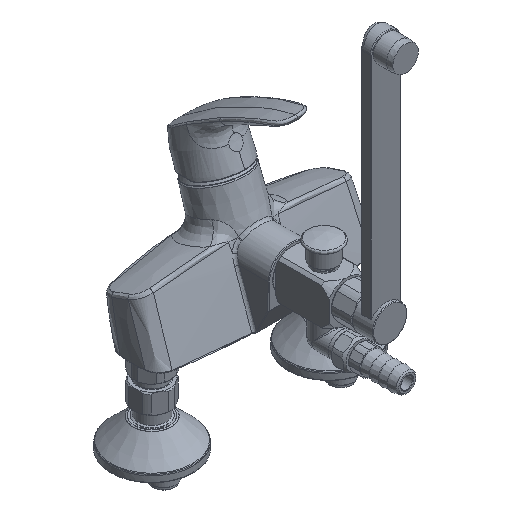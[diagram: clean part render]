
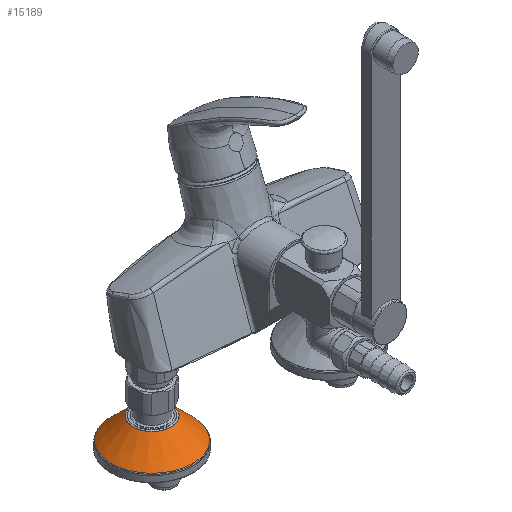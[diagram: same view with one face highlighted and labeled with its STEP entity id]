
A CAD part, isometric view. The second image highlights one B-rep face of the part: STEP entity #15189.
In plain terms, the highlighted conical face has half-angle 45.496 degrees and reference radius 35 mm.
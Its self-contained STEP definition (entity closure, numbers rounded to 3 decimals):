
#1088 = VERTEX_POINT ( 'NONE', #33629 ) ;
#1168 = CARTESIAN_POINT ( 'NONE',  ( -109.323, -4.771, 6.588 ) ) ;
#1277 = CARTESIAN_POINT ( 'NONE',  ( -79.646, -34.448, 6.588 ) ) ;
#1407 = CARTESIAN_POINT ( 'NONE',  ( -44.221, -15.513, 6.588 ) ) ;
#1502 = VERTEX_POINT ( 'NONE', #33983 ) ;
#1530 = CARTESIAN_POINT ( 'NONE',  ( -52.409, 25.65, 6.588 ) ) ;
#1649 = CARTESIAN_POINT ( 'NONE',  ( -92.384, 29.587, 6.588 ) ) ;
#2494 = EDGE_CURVE ( 'NONE', #1088, #1088, #25888, .T. ) ;
#3951 = CARTESIAN_POINT ( 'NONE',  ( -107.788, -11.353, 6.588 ) ) ;
#4085 = CARTESIAN_POINT ( 'NONE',  ( -72.891, -34.67, 6.588 ) ) ;
#4204 = CARTESIAN_POINT ( 'NONE',  ( -41.841, -9.188, 6.588 ) ) ;
#4317 = CARTESIAN_POINT ( 'NONE',  ( -57.902, 29.587, 6.588 ) ) ;
#4442 = CARTESIAN_POINT ( 'NONE',  ( -97.877, 25.65, 6.588 ) ) ;
#5370 = DIRECTION ( 'NONE',  ( 0., 0., -1. ) ) ;
#6385 = CARTESIAN_POINT ( 'NONE',  ( -109.545, -0.268, 6.588 ) ) ;
#6746 = CARTESIAN_POINT ( 'NONE',  ( -104.998, -17.509, 6.588 ) ) ;
#6861 = CARTESIAN_POINT ( 'NONE',  ( -66.223, -33.57, 6.588 ) ) ;
#6972 = CARTESIAN_POINT ( 'NONE',  ( -40.741, -2.52, 6.588 ) ) ;
#7100 = CARTESIAN_POINT ( 'NONE',  ( -64.058, 32.377, 6.588 ) ) ;
#7222 = CARTESIAN_POINT ( 'NONE',  ( -102.496, 20.717, 6.588 ) ) ;
#9542 = CARTESIAN_POINT ( 'NONE',  ( -101.061, -23.002, 6.588 ) ) ;
#9664 = CARTESIAN_POINT ( 'NONE',  ( -59.898, -31.19, 6.588 ) ) ;
#9789 = CARTESIAN_POINT ( 'NONE',  ( -40.963, 4.235, 6.588 ) ) ;
#9907 = CARTESIAN_POINT ( 'NONE',  ( -70.64, 33.912, 6.588 ) ) ;
#10026 = CARTESIAN_POINT ( 'NONE',  ( -106.065, 14.977, 6.588 ) ) ;
#10036 = DIRECTION ( 'NONE',  ( 0., 0., -1. ) ) ;
#12336 = CARTESIAN_POINT ( 'NONE',  ( -96.128, -27.621, 6.588 ) ) ;
#12456 = CARTESIAN_POINT ( 'NONE',  ( -54.158, -27.621, 6.588 ) ) ;
#12556 = CARTESIAN_POINT ( 'NONE',  ( -42.498, 10.817, 6.588 ) ) ;
#12693 = CARTESIAN_POINT ( 'NONE',  ( -77.395, 34.134, 6.588 ) ) ;
#12817 = CARTESIAN_POINT ( 'NONE',  ( -108.445, 8.652, 6.588 ) ) ;
#13056 = EDGE_CURVE ( 'NONE', #1502, #1502, #22123, .T. ) ;
#15103 = CARTESIAN_POINT ( 'NONE',  ( -90.388, -31.19, 6.588 ) ) ;
#15189 = ADVANCED_FACE ( 'NONE', ( #23794, #18173 ), #15564, .T. ) ;
#15225 = CARTESIAN_POINT ( 'NONE',  ( -49.225, -23.002, 6.588 ) ) ;
#15346 = CARTESIAN_POINT ( 'NONE',  ( -45.288, 16.973, 6.588 ) ) ;
#15462 = CARTESIAN_POINT ( 'NONE',  ( -84.063, 33.034, 6.588 ) ) ;
#15564 = CONICAL_SURFACE ( 'NONE', #25958, 35., 0.794 ) ;
#15580 = CARTESIAN_POINT ( 'NONE',  ( -109.545, 1.984, 6.588 ) ) ;
#17779 = CARTESIAN_POINT ( 'NONE',  ( -109.545, -2.52, 6.588 ) ) ;
#17902 = CARTESIAN_POINT ( 'NONE',  ( -84.063, -33.57, 6.588 ) ) ;
#18026 = CARTESIAN_POINT ( 'NONE',  ( -45.288, -17.509, 6.588 ) ) ;
#18133 = CARTESIAN_POINT ( 'NONE',  ( -49.225, 22.466, 6.588 ) ) ;
#18173 = FACE_BOUND ( 'NONE', #31010, .T. ) ;
#18254 = CARTESIAN_POINT ( 'NONE',  ( -90.388, 30.654, 6.588 ) ) ;
#19178 = DIRECTION ( 'NONE',  ( -1., 0., 0. ) ) ;
#19636 = ORIENTED_EDGE ( 'NONE', *, *, #2494, .T. ) ;
#20552 = CARTESIAN_POINT ( 'NONE',  ( -108.445, -9.188, 6.588 ) ) ;
#20672 = CARTESIAN_POINT ( 'NONE',  ( -77.395, -34.67, 6.588 ) ) ;
#20773 = CARTESIAN_POINT ( 'NONE',  ( -42.498, -11.353, 6.588 ) ) ;
#20904 = CARTESIAN_POINT ( 'NONE',  ( -54.158, 27.085, 6.588 ) ) ;
#21040 = CARTESIAN_POINT ( 'NONE',  ( -96.128, 27.085, 6.588 ) ) ;
#22123 = CIRCLE ( 'NONE', #26323, 16.252 ) ;
#23329 = CARTESIAN_POINT ( 'NONE',  ( -106.065, -15.513, 6.588 ) ) ;
#23436 = CARTESIAN_POINT ( 'NONE',  ( -70.64, -34.448, 6.588 ) ) ;
#23572 = CARTESIAN_POINT ( 'NONE',  ( -40.963, -4.771, 6.588 ) ) ;
#23692 = CARTESIAN_POINT ( 'NONE',  ( -59.898, 30.654, 6.588 ) ) ;
#23794 = FACE_OUTER_BOUND ( 'NONE', #31039, .T. ) ;
#23811 = CARTESIAN_POINT ( 'NONE',  ( -101.061, 22.466, 6.588 ) ) ;
#24615 = CARTESIAN_POINT ( 'NONE',  ( -75.143, -0.268, 6. ) ) ;
#25888 = B_SPLINE_CURVE_WITH_KNOTS ( 'NONE', 3,
 ( #6385, #17779, #1168, #20552, #3951, #23329, #6746, #26087, #9542, #28890, #12336, #31656, #15103, #34432, #17902, #1277, #20672, #4085, #23436, #6861, #26209, #9664, #28994, #12456, #31786, #15225, #34539, #18026, #1407, #20773, #4204, #23572, #6972, #26327, #9789, #29121, #12556, #31907, #15346, #34658, #18133, #1530, #20904, #4317, #23692, #7100, #26444, #9907, #29250, #12693, #32018, #15462, #34782, #18254, #1649, #21040, #4442, #23811, #7222, #26578, #10026, #29376, #12817, #32146, #15580, #34912 ),
 .UNSPECIFIED., .T., .F.,
 ( 4, 2, 2, 2, 2, 2, 2, 2, 2, 2, 2, 2, 2, 2, 2, 2, 2, 2, 2, 2, 2, 2, 2, 2, 2, 2, 2, 2, 2, 2, 2, 2, 4 ),
 ( 0., 0.031, 0.063, 0.094, 0.125, 0.156, 0.188, 0.219, 0.25, 0.281, 0.313, 0.344, 0.375, 0.406, 0.437, 0.469, 0.5, 0.531, 0.563, 0.594, 0.625, 0.656, 0.688, 0.719, 0.75, 0.781, 0.812, 0.844, 0.875, 0.906, 0.937, 0.969, 1. ),
 .UNSPECIFIED. ) ;
#25958 = AXIS2_PLACEMENT_3D ( 'NONE', #24615, #5370, #19178 ) ;
#26087 = CARTESIAN_POINT ( 'NONE',  ( -102.496, -21.253, 6.588 ) ) ;
#26209 = CARTESIAN_POINT ( 'NONE',  ( -64.058, -32.913, 6.588 ) ) ;
#26323 = AXIS2_PLACEMENT_3D ( 'NONE', #26589, #10036, #29386 ) ;
#26327 = CARTESIAN_POINT ( 'NONE',  ( -40.741, 1.984, 6.588 ) ) ;
#26444 = CARTESIAN_POINT ( 'NONE',  ( -66.223, 33.034, 6.588 ) ) ;
#26578 = CARTESIAN_POINT ( 'NONE',  ( -104.998, 16.973, 6.588 ) ) ;
#26589 = CARTESIAN_POINT ( 'NONE',  ( -75.143, -0.268, 24.426 ) ) ;
#28890 = CARTESIAN_POINT ( 'NONE',  ( -97.877, -26.186, 6.588 ) ) ;
#28994 = CARTESIAN_POINT ( 'NONE',  ( -57.902, -30.123, 6.588 ) ) ;
#29121 = CARTESIAN_POINT ( 'NONE',  ( -41.841, 8.652, 6.588 ) ) ;
#29250 = CARTESIAN_POINT ( 'NONE',  ( -72.891, 34.134, 6.588 ) ) ;
#29376 = CARTESIAN_POINT ( 'NONE',  ( -107.788, 10.817, 6.588 ) ) ;
#29386 = DIRECTION ( 'NONE',  ( -1., 0., 0. ) ) ;
#30374 = ORIENTED_EDGE ( 'NONE', *, *, #13056, .T. ) ;
#31010 = EDGE_LOOP ( 'NONE', ( #30374 ) ) ;
#31039 = EDGE_LOOP ( 'NONE', ( #19636 ) ) ;
#31656 = CARTESIAN_POINT ( 'NONE',  ( -92.384, -30.123, 6.588 ) ) ;
#31786 = CARTESIAN_POINT ( 'NONE',  ( -52.409, -26.186, 6.588 ) ) ;
#31907 = CARTESIAN_POINT ( 'NONE',  ( -44.221, 14.977, 6.588 ) ) ;
#32018 = CARTESIAN_POINT ( 'NONE',  ( -79.646, 33.912, 6.588 ) ) ;
#32146 = CARTESIAN_POINT ( 'NONE',  ( -109.323, 4.235, 6.588 ) ) ;
#33629 = CARTESIAN_POINT ( 'NONE',  ( -109.545, -0.268, 6.588 ) ) ;
#33983 = CARTESIAN_POINT ( 'NONE',  ( -91.395, -0.268, 24.426 ) ) ;
#34432 = CARTESIAN_POINT ( 'NONE',  ( -86.228, -32.913, 6.588 ) ) ;
#34539 = CARTESIAN_POINT ( 'NONE',  ( -47.79, -21.253, 6.588 ) ) ;
#34658 = CARTESIAN_POINT ( 'NONE',  ( -47.79, 20.717, 6.588 ) ) ;
#34782 = CARTESIAN_POINT ( 'NONE',  ( -86.228, 32.377, 6.588 ) ) ;
#34912 = CARTESIAN_POINT ( 'NONE',  ( -109.545, -0.268, 6.588 ) ) ;
